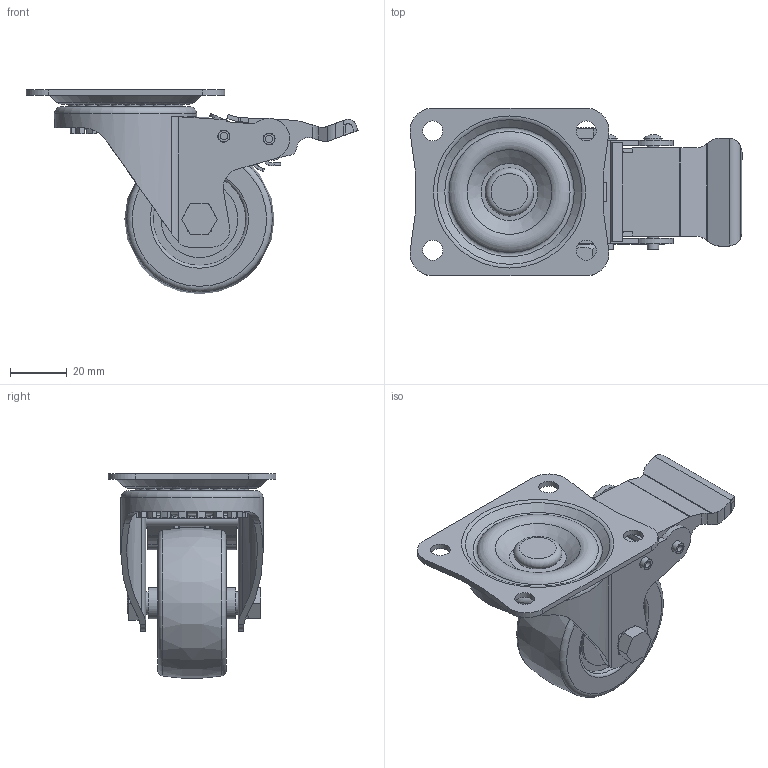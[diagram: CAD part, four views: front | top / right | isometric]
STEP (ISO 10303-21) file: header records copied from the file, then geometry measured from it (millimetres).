
FILE_DESCRIPTION(/* description */ (''),/* implementation_level */ '2;1');
FILE_NAME(/* name */ '15A02_2_F.stp',/* time_stamp */ '2022-10-06T13:59:58+08:00',/* author */ (''),/* organization */ (''),/* preprocessor_version */ 'ST-DEVELOPER v14',/* originating_system */ 'SIEMENS PLM Software NX 8.0',/* authorisation */ '');
FILE_SCHEMA (('AUTOMOTIVE_DESIGN { 1 0 10303 214 3 1 1 1 }'));
Length unit declared in the file: millimetre
Products named in the file (1): 15A02_2_F
Bounding box: 116.76 x 59 x 71.9 mm (x, y, z)
Volume: 81891.5 mm3; surface area: 44845.8 mm2
Topology: 1 solids, 2 shells, 750 faces, 2251 edges, 1456 vertices
Faces by surface type: plane 367, cylinder 206, torus 87, sphere 45, bspline 19, cone 18, extrusion 8
Full cylindrical faces by diameter (mm): 2.6 x2, 4 x3, 4.2 x5, 6.5 x2, 7 x4, 8 x3, 8.2 x3, 10 x1, 10.2 x1, 10.5 x1, 11 x2, 17 x1, 23 x2, 27 x2, 32.5 x2, 46 x1, 50 x1
Entity records: 31367 total; most frequent: CARTESIAN_POINT 12600, ORIENTED_EDGE 4114, DIRECTION 3557, EDGE_CURVE 2057, VERTEX_POINT 1381, AXIS2_PLACEMENT_3D 1377, EDGE_LOOP 942, VECTOR 803
